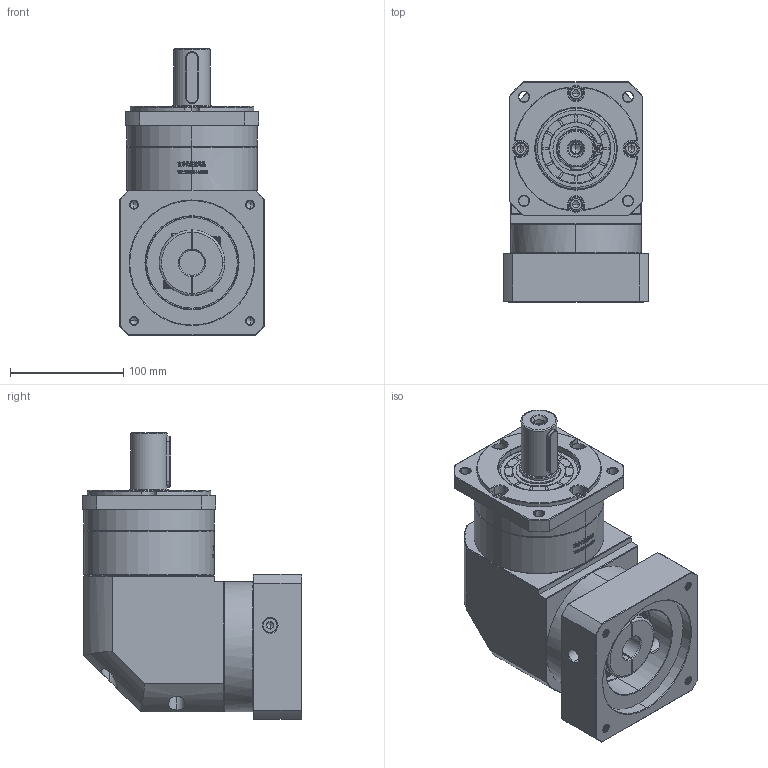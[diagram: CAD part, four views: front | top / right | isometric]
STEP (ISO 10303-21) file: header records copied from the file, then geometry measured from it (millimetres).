
FILE_DESCRIPTION (( 'STEP AP214' ), '1' );
FILE_NAME ('ZFR120A-D32-L1-22-110-145-M8.step', '2023-03-08T08:24:12', ( '' ), ( '' ), 'SwSTEP 2.0', 'SolidWorks 2016', '' );
FILE_SCHEMA (( 'AUTOMOTIVE_DESIGN' ));
Length unit declared in the file: millimetre
Products named in the file (1): ZFR120A-D32-L1-22-110-145-M8
Bounding box: 128 x 193.9 x 253 mm (x, y, z)
Volume: 2992821.6 mm3; surface area: 252582.4 mm2
Topology: 6 solids, 6 shells, 2871 faces, 7670 edges, 4944 vertices
Faces by surface type: plane 1484, bspline 607, cylinder 434, cone 338, torus 8
Entity records: 158146 total; most frequent: CARTESIAN_POINT 60801, ORIENTED_EDGE 15280, DIRECTION 11111, EDGE_CURVE 7640, VERTEX_POINT 4944, VECTOR 4749, LINE 4749, AXIS2_PLACEMENT_3D 3181
